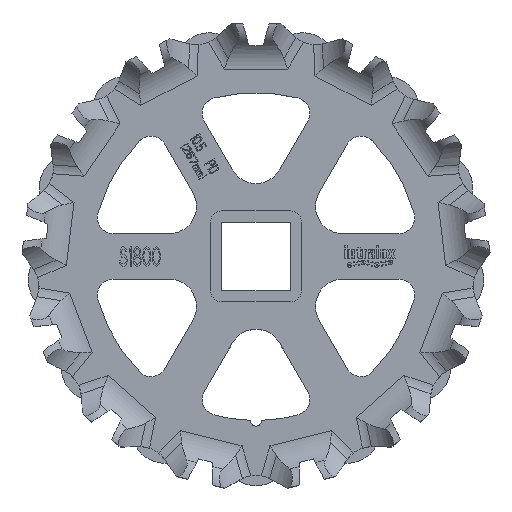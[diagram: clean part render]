
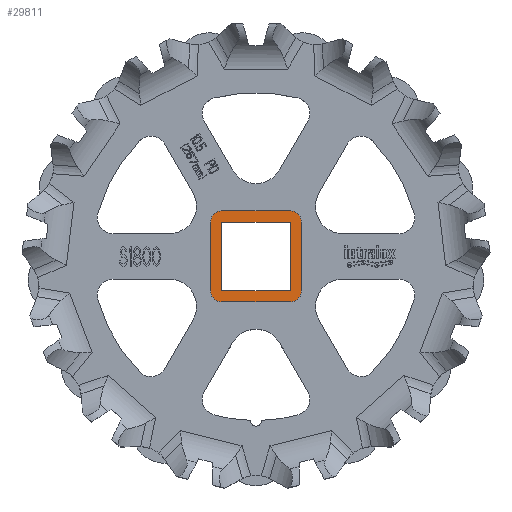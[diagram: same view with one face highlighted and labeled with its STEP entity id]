
A CAD part, top view. The second image highlights one B-rep face of the part: STEP entity #29811.
In plain terms, the highlighted planar face has unit normal (0, 0, 1).
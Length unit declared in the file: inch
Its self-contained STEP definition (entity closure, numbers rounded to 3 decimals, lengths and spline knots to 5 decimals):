
#10348=CARTESIAN_POINT('',(-0.75,0.75,0.75));
#10349=DIRECTION('',(0.,0.,1.));
#10350=DIRECTION('',(0.,1.,0.));
#10351=AXIS2_PLACEMENT_3D('',#10348,#10349,#10350);
#10353=DIRECTION('',(-1.,0.,0.));
#10354=VECTOR('',#10353,1.5);
#10355=CARTESIAN_POINT('',(0.75,1.,0.75));
#10356=LINE('',#10355,#10354);
#10357=CARTESIAN_POINT('',(0.75,0.75,0.75));
#10358=DIRECTION('',(0.,0.,1.));
#10359=DIRECTION('',(1.,0.,0.));
#10360=AXIS2_PLACEMENT_3D('',#10357,#10358,#10359);
#10362=DIRECTION('',(0.,1.,0.));
#10363=VECTOR('',#10362,1.5);
#10364=CARTESIAN_POINT('',(1.,-0.75,0.75));
#10365=LINE('',#10364,#10363);
#10366=CARTESIAN_POINT('',(0.75,-0.75,0.75));
#10367=DIRECTION('',(0.,0.,1.));
#10368=DIRECTION('',(0.,-1.,0.));
#10369=AXIS2_PLACEMENT_3D('',#10366,#10367,#10368);
#10371=DIRECTION('',(1.,0.,0.));
#10372=VECTOR('',#10371,1.5);
#10373=CARTESIAN_POINT('',(-0.75,-1.,0.75));
#10374=LINE('',#10373,#10372);
#10375=CARTESIAN_POINT('',(-0.75,-0.75,0.75));
#10376=DIRECTION('',(0.,0.,1.));
#10377=DIRECTION('',(-1.,0.,0.));
#10378=AXIS2_PLACEMENT_3D('',#10375,#10376,#10377);
#10380=DIRECTION('',(0.,-1.,0.));
#10381=VECTOR('',#10380,1.5);
#10382=CARTESIAN_POINT('',(-1.,0.75,0.75));
#10383=LINE('',#10382,#10381);
#10384=DIRECTION('',(1.,0.,0.));
#10385=VECTOR('',#10384,1.5);
#10386=CARTESIAN_POINT('',(-0.75,-0.75,0.75));
#10387=LINE('',#10386,#10385);
#10388=DIRECTION('',(0.,1.,0.));
#10389=VECTOR('',#10388,1.5);
#10390=CARTESIAN_POINT('',(0.75,-0.75,0.75));
#10391=LINE('',#10390,#10389);
#10392=DIRECTION('',(-1.,0.,0.));
#10393=VECTOR('',#10392,1.5);
#10394=CARTESIAN_POINT('',(0.75,0.75,0.75));
#10395=LINE('',#10394,#10393);
#10396=DIRECTION('',(0.,-1.,0.));
#10397=VECTOR('',#10396,1.5);
#10398=CARTESIAN_POINT('',(-0.75,0.75,0.75));
#10399=LINE('',#10398,#10397);
#17139=CARTESIAN_POINT('',(-0.75,1.,0.75));
#17140=CARTESIAN_POINT('',(-1.,0.75,0.75));
#17141=VERTEX_POINT('',#17139);
#17142=VERTEX_POINT('',#17140);
#17143=CARTESIAN_POINT('',(-1.,-0.75,0.75));
#17144=VERTEX_POINT('',#17143);
#17145=CARTESIAN_POINT('',(-0.75,-1.,0.75));
#17146=VERTEX_POINT('',#17145);
#17147=CARTESIAN_POINT('',(0.75,-1.,0.75));
#17148=VERTEX_POINT('',#17147);
#17149=CARTESIAN_POINT('',(1.,-0.75,0.75));
#17150=VERTEX_POINT('',#17149);
#17151=CARTESIAN_POINT('',(1.,0.75,0.75));
#17152=VERTEX_POINT('',#17151);
#17153=CARTESIAN_POINT('',(0.75,1.,0.75));
#17154=VERTEX_POINT('',#17153);
#17195=CARTESIAN_POINT('',(-0.75,-0.75,0.75));
#17196=CARTESIAN_POINT('',(0.75,-0.75,0.75));
#17197=VERTEX_POINT('',#17195);
#17198=VERTEX_POINT('',#17196);
#17199=CARTESIAN_POINT('',(0.75,0.75,0.75));
#17200=VERTEX_POINT('',#17199);
#17201=CARTESIAN_POINT('',(-0.75,0.75,0.75));
#17202=VERTEX_POINT('',#17201);
#29786=CARTESIAN_POINT('',(0.,0.,0.75));
#29787=DIRECTION('',(0.,0.,1.));
#29788=DIRECTION('',(1.,0.,0.));
#29789=AXIS2_PLACEMENT_3D('',#29786,#29787,#29788);
#29790=PLANE('',#29789);
#29791=ORIENTED_EDGE('',*,*,#29570,.F.);
#29792=ORIENTED_EDGE('',*,*,#29600,.F.);
#29793=ORIENTED_EDGE('',*,*,#29628,.F.);
#29794=ORIENTED_EDGE('',*,*,#29656,.F.);
#29795=ORIENTED_EDGE('',*,*,#29684,.F.);
#29796=ORIENTED_EDGE('',*,*,#29712,.F.);
#29797=ORIENTED_EDGE('',*,*,#29740,.F.);
#29798=ORIENTED_EDGE('',*,*,#29767,.F.);
#29799=EDGE_LOOP('',(#29791,#29792,#29793,#29794,#29795,#29796,#29797,#29798));
#29800=FACE_OUTER_BOUND('',#29799,.F.);
#29802=ORIENTED_EDGE('',*,*,#29801,.T.);
#29804=ORIENTED_EDGE('',*,*,#29803,.T.);
#29806=ORIENTED_EDGE('',*,*,#29805,.T.);
#29808=ORIENTED_EDGE('',*,*,#29807,.T.);
#29809=EDGE_LOOP('',(#29802,#29804,#29806,#29808));
#29810=FACE_BOUND('',#29809,.F.);
#29811=ADVANCED_FACE('',(#29800,#29810),#29790,.T.);
#10352=CIRCLE('',#10351,0.25);
#10361=CIRCLE('',#10360,0.25);
#10370=CIRCLE('',#10369,0.25);
#10379=CIRCLE('',#10378,0.25);
#29570=EDGE_CURVE('',#17141,#17142,#10352,.T.);
#29600=EDGE_CURVE('',#17154,#17141,#10356,.T.);
#29628=EDGE_CURVE('',#17152,#17154,#10361,.T.);
#29656=EDGE_CURVE('',#17150,#17152,#10365,.T.);
#29684=EDGE_CURVE('',#17148,#17150,#10370,.T.);
#29712=EDGE_CURVE('',#17146,#17148,#10374,.T.);
#29740=EDGE_CURVE('',#17144,#17146,#10379,.T.);
#29767=EDGE_CURVE('',#17142,#17144,#10383,.T.);
#29801=EDGE_CURVE('',#17197,#17198,#10387,.T.);
#29803=EDGE_CURVE('',#17198,#17200,#10391,.T.);
#29805=EDGE_CURVE('',#17200,#17202,#10395,.T.);
#29807=EDGE_CURVE('',#17202,#17197,#10399,.T.);
